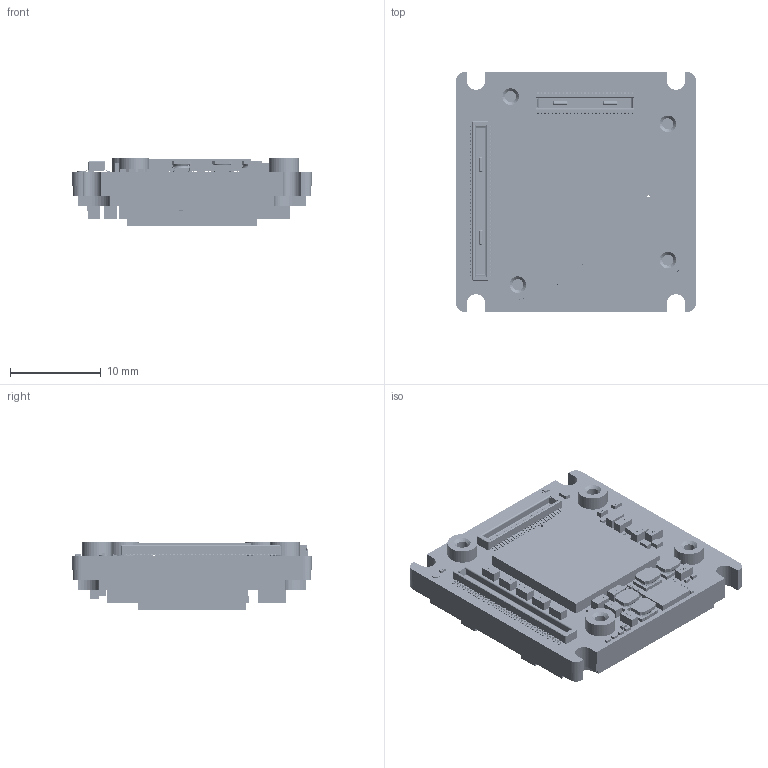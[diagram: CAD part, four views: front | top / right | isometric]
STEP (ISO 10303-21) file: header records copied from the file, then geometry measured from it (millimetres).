
FILE_DESCRIPTION (( 'STEP AP214' ), '1' );
FILE_NAME ('Alvium-Extended-Bare-Board-IMX548.STEP', '2022-12-07T11:16:00', ( '' ), ( '' ), 'SwSTEP 2.0', 'SolidWorks 2021', '' );
FILE_SCHEMA (( 'AUTOMOTIVE_DESIGN' ));
Length unit declared in the file: millimetre
Products named in the file (1): Alvium-Extended-Bare-Board-IMX548
Bounding box: 26.4 x 26.4 x 7.47 mm (x, y, z)
Volume: 3299.6 mm3; surface area: 4372.3 mm2
Topology: 174 solids, 174 shells, 11598 faces, 29442 edges, 19180 vertices
Faces by surface type: plane 6058, bspline 4450, cylinder 1010, torus 40, cone 24, sphere 16
Entity records: 729651 total; most frequent: CARTESIAN_POINT 350311, ORIENTED_EDGE 58836, DIRECTION 36796, EDGE_CURVE 29418, VERTEX_POINT 19180, LINE 18346, VECTOR 18346, EDGE_LOOP 12618
